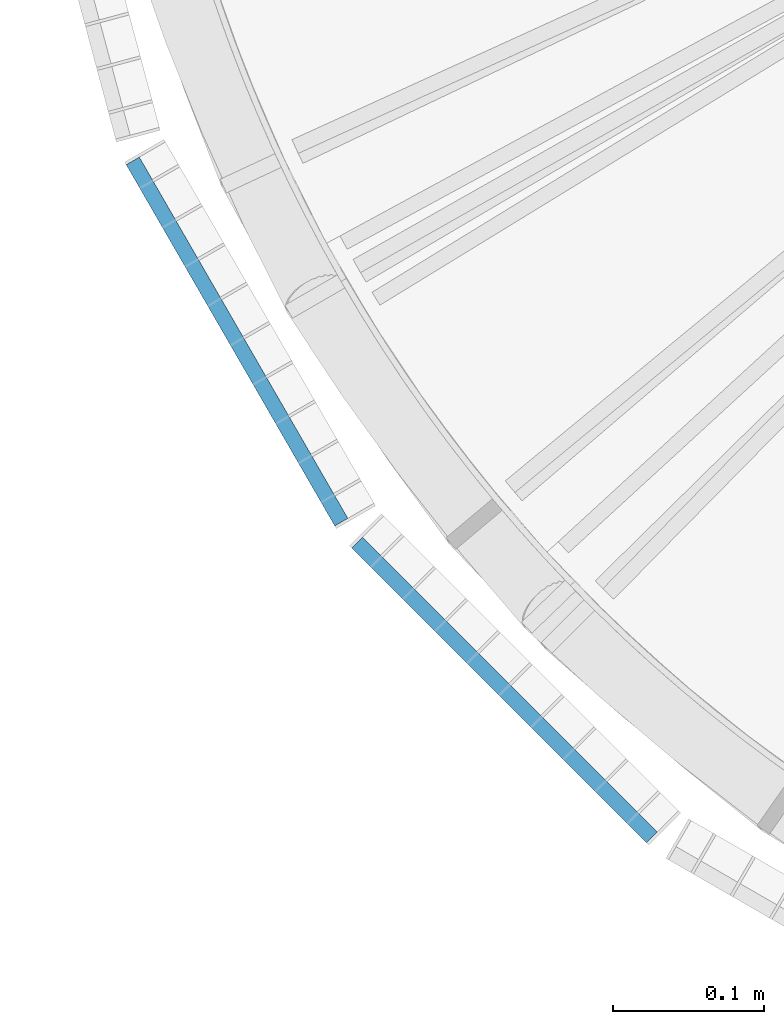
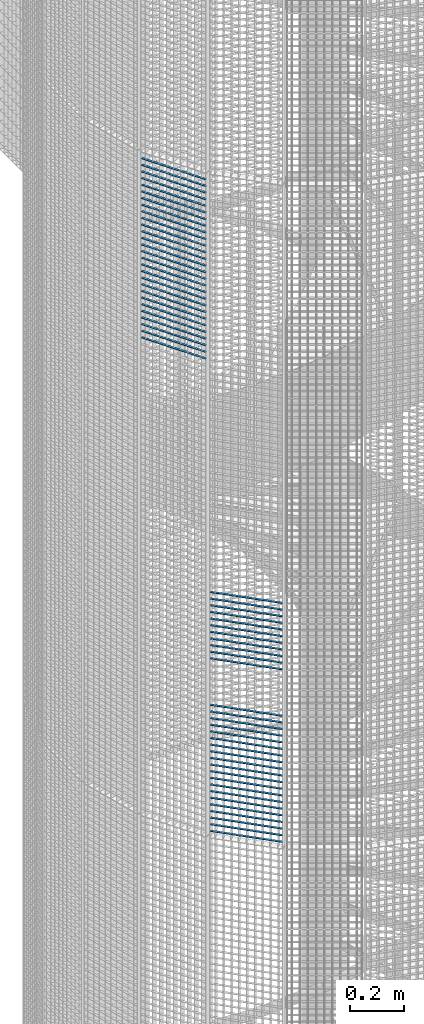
# One storey, part 124 of 1148: 59 beams, 2 elements without a shape of their own.
"""IFC2X3 building model written with IfcOpenShell, lengths in millimetres."""

from ifc_helpers import new_model, si_unit, frame, origin_with_axes, origin_2d_with_axis, place, context, subcontext, project, spatial, rectangle, extrude, material, type_object, element, aggregate, save


model = new_model("IFC2X3")

# Units and contexts
model_context = context("Model", 3, precision=1e-05, world=origin_with_axes())
body_context = subcontext(model_context, "Body", "Model", "MODEL_VIEW")
ifc_project = project(units=[si_unit("LENGTHUNIT", "METRE", prefix="MILLI"), si_unit("AREAUNIT", "SQUARE_METRE"), si_unit("VOLUMEUNIT", "CUBIC_METRE"), si_unit("MASSUNIT", "GRAM", prefix="KILO"), si_unit("TIMEUNIT", "SECOND"), si_unit("PLANEANGLEUNIT", "RADIAN"), si_unit("SOLIDANGLEUNIT", "STERADIAN"), si_unit("THERMODYNAMICTEMPERATUREUNIT", "DEGREE_CELSIUS"), si_unit("LUMINOUSINTENSITYUNIT", "LUMEN")], contexts=[model_context])

# Site, building, storey
site_placement = place(None, origin_with_axes())
site = spatial("IfcSite", under=ifc_project, at=site_placement, Name="Undefined", CompositionType="ELEMENT")
building_placement = place(site_placement, origin_with_axes())
building = spatial("IfcBuilding", under=site, at=building_placement, Name="Undefined", CompositionType="ELEMENT")
storey_placement = place(building_placement, origin_with_axes())
storey = spatial("IfcBuildingStorey", under=building, at=storey_placement, Name="Undefined", CompositionType="ELEMENT", Elevation=0.0)

# Assembly, beams
assembly_1_placement = place(storey_placement, origin_with_axes())
assembly_1 = element("IfcElementAssembly", 1, at=assembly_1_placement, inside=storey, Name="BORDURE", AssemblyPlace="NOTDEFINED", PredefinedType="NOTDEFINED")
ifc_material = material(Name="STEEL/S235JR")
beam_type = type_object("IfcBeamType", Name="PL2*10", PredefinedType="NOTDEFINED")
beam_1_placement = place(assembly_1_placement, frame((-884.927168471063, -689.771348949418, 3600.0), z_axis=(-0.70710678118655, -0.707106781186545, 0.0), x_axis=(0.707106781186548, -0.707106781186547, 0.0)))
beam_1 = element("IfcBeam", 2, at=beam_1_placement, type_object=beam_type, material=ifc_material, Name="ENTRETOISE", context=body_context, shape_type="SweptSolid", body=[
    extrude(rectangle(XDim=2.0, YDim=10.0, at=origin_2d_with_axis()), frame((275.999999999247, 9.09494701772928e-13, 1.53210777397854e-14), z_axis=(-1.0, 0.0, 0.0), x_axis=(0.0, -1.0, 0.0)), (0.0, 0.0, 1.0), 276.0),
])
beam_2_placement = place(assembly_1_placement, frame((-884.927168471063, -689.771348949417, 3810.0), z_axis=(-0.70710678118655, -0.707106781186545, 0.0), x_axis=(0.707106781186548, -0.707106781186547, 0.0)))
beam_2 = element("IfcBeam", 3, at=beam_2_placement, type_object=beam_type, material=ifc_material, Name="ENTRETOISE", context=body_context, shape_type="SweptSolid", body=[
    extrude(rectangle(XDim=2.0, YDim=10.0, at=origin_2d_with_axis()), frame((275.999999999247, 9.09494701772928e-13, 1.53210777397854e-14), z_axis=(-1.0, 0.0, 0.0), x_axis=(0.0, -1.0, 0.0)), (0.0, 0.0, 1.0), 276.0),
])
beam_3_placement = place(assembly_1_placement, frame((-884.927168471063, -689.771348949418, 3570.0), z_axis=(-0.70710678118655, -0.707106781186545, 0.0), x_axis=(0.707106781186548, -0.707106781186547, 0.0)))
beam_3 = element("IfcBeam", 4, at=beam_3_placement, type_object=beam_type, material=ifc_material, Name="ENTRETOISE", context=body_context, shape_type="SweptSolid", body=[
    extrude(rectangle(XDim=2.0, YDim=10.0, at=origin_2d_with_axis()), frame((275.999999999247, 9.09494701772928e-13, 1.53210777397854e-14), z_axis=(-1.0, 0.0, 0.0), x_axis=(0.0, -1.0, 0.0)), (0.0, 0.0, 1.0), 276.0),
])
beam_4_placement = place(assembly_1_placement, frame((-884.927168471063, -689.771348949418, 3540.0), z_axis=(-0.70710678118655, -0.707106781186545, 0.0), x_axis=(0.707106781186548, -0.707106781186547, 0.0)))
beam_4 = element("IfcBeam", 5, at=beam_4_placement, type_object=beam_type, material=ifc_material, Name="ENTRETOISE", context=body_context, shape_type="SweptSolid", body=[
    extrude(rectangle(XDim=2.0, YDim=10.0, at=origin_2d_with_axis()), frame((275.999999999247, 9.09494701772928e-13, 1.53210777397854e-14), z_axis=(-1.0, 0.0, 0.0), x_axis=(0.0, -1.0, 0.0)), (0.0, 0.0, 1.0), 276.0),
])
beam_5_placement = place(assembly_1_placement, frame((-884.927168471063, -689.771348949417, 3840.0), z_axis=(-0.70710678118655, -0.707106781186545, 0.0), x_axis=(0.707106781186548, -0.707106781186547, 0.0)))
beam_5 = element("IfcBeam", 6, at=beam_5_placement, type_object=beam_type, material=ifc_material, Name="ENTRETOISE", context=body_context, shape_type="SweptSolid", body=[
    extrude(rectangle(XDim=2.0, YDim=10.0, at=origin_2d_with_axis()), frame((275.999999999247, 9.09494701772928e-13, 1.53210777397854e-14), z_axis=(-1.0, 0.0, 0.0), x_axis=(0.0, -1.0, 0.0)), (0.0, 0.0, 1.0), 276.0),
])
beam_6_placement = place(assembly_1_placement, frame((-884.927168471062, -689.771348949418, 3510.0), z_axis=(-0.70710678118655, -0.707106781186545, 0.0), x_axis=(0.707106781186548, -0.707106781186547, 0.0)))
beam_6 = element("IfcBeam", 7, at=beam_6_placement, type_object=beam_type, material=ifc_material, Name="ENTRETOISE", context=body_context, shape_type="SweptSolid", body=[
    extrude(rectangle(XDim=2.0, YDim=10.0, at=origin_2d_with_axis()), frame((275.999999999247, 9.09494701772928e-13, 1.53210777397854e-14), z_axis=(-1.0, 0.0, 0.0), x_axis=(0.0, -1.0, 0.0)), (0.0, 0.0, 1.0), 276.0),
])
beam_7_placement = place(assembly_1_placement, frame((-884.927168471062, -689.771348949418, 3480.0), z_axis=(-0.70710678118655, -0.707106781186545, 0.0), x_axis=(0.707106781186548, -0.707106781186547, 0.0)))
beam_7 = element("IfcBeam", 8, at=beam_7_placement, type_object=beam_type, material=ifc_material, Name="ENTRETOISE", context=body_context, shape_type="SweptSolid", body=[
    extrude(rectangle(XDim=2.0, YDim=10.0, at=origin_2d_with_axis()), frame((275.999999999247, 9.09494701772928e-13, 1.53210777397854e-14), z_axis=(-1.0, 0.0, 0.0), x_axis=(0.0, -1.0, 0.0)), (0.0, 0.0, 1.0), 276.0),
])
beam_8_placement = place(assembly_1_placement, frame((-884.927168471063, -689.771348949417, 3870.0), z_axis=(-0.70710678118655, -0.707106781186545, 0.0), x_axis=(0.707106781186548, -0.707106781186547, 0.0)))
beam_8 = element("IfcBeam", 9, at=beam_8_placement, type_object=beam_type, material=ifc_material, Name="ENTRETOISE", context=body_context, shape_type="SweptSolid", body=[
    extrude(rectangle(XDim=2.0, YDim=10.0, at=origin_2d_with_axis()), frame((275.999999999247, 9.09494701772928e-13, 1.53210777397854e-14), z_axis=(-1.0, 0.0, 0.0), x_axis=(0.0, -1.0, 0.0)), (0.0, 0.0, 1.0), 276.0),
])
beam_9_placement = place(assembly_1_placement, frame((-884.927168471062, -689.771348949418, 3450.0), z_axis=(-0.70710678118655, -0.707106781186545, 0.0), x_axis=(0.707106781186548, -0.707106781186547, 0.0)))
beam_9 = element("IfcBeam", 10, at=beam_9_placement, type_object=beam_type, material=ifc_material, Name="ENTRETOISE", context=body_context, shape_type="SweptSolid", body=[
    extrude(rectangle(XDim=2.0, YDim=10.0, at=origin_2d_with_axis()), frame((275.999999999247, 9.09494701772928e-13, 1.53210777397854e-14), z_axis=(-1.0, 0.0, 0.0), x_axis=(0.0, -1.0, 0.0)), (0.0, 0.0, 1.0), 276.0),
])
beam_10_placement = place(assembly_1_placement, frame((-884.927168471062, -689.771348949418, 3420.0), z_axis=(-0.70710678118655, -0.707106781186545, 0.0), x_axis=(0.707106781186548, -0.707106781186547, 0.0)))
beam_10 = element("IfcBeam", 11, at=beam_10_placement, type_object=beam_type, material=ifc_material, Name="ENTRETOISE", context=body_context, shape_type="SweptSolid", body=[
    extrude(rectangle(XDim=2.0, YDim=10.0, at=origin_2d_with_axis()), frame((275.999999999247, 9.09494701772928e-13, 1.53210777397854e-14), z_axis=(-1.0, 0.0, 0.0), x_axis=(0.0, -1.0, 0.0)), (0.0, 0.0, 1.0), 276.0),
])
beam_11_placement = place(assembly_1_placement, frame((-884.927168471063, -689.771348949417, 3900.0), z_axis=(-0.70710678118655, -0.707106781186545, 0.0), x_axis=(0.707106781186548, -0.707106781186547, 0.0)))
beam_11 = element("IfcBeam", 12, at=beam_11_placement, type_object=beam_type, material=ifc_material, Name="ENTRETOISE", context=body_context, shape_type="SweptSolid", body=[
    extrude(rectangle(XDim=2.0, YDim=10.0, at=origin_2d_with_axis()), frame((275.999999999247, 9.09494701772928e-13, 1.53210777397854e-14), z_axis=(-1.0, 0.0, 0.0), x_axis=(0.0, -1.0, 0.0)), (0.0, 0.0, 1.0), 276.0),
])
beam_12_placement = place(assembly_1_placement, frame((-884.927168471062, -689.771348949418, 3390.0), z_axis=(-0.70710678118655, -0.707106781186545, 0.0), x_axis=(0.707106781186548, -0.707106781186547, 0.0)))
beam_12 = element("IfcBeam", 13, at=beam_12_placement, type_object=beam_type, material=ifc_material, Name="ENTRETOISE", context=body_context, shape_type="SweptSolid", body=[
    extrude(rectangle(XDim=2.0, YDim=10.0, at=origin_2d_with_axis()), frame((275.999999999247, 9.09494701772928e-13, 1.53210777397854e-14), z_axis=(-1.0, 0.0, 0.0), x_axis=(0.0, -1.0, 0.0)), (0.0, 0.0, 1.0), 276.0),
])
beam_13_placement = place(assembly_1_placement, frame((-884.927168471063, -689.771348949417, 3930.0), z_axis=(-0.70710678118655, -0.707106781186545, 0.0), x_axis=(0.707106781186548, -0.707106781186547, 0.0)))
beam_13 = element("IfcBeam", 14, at=beam_13_placement, type_object=beam_type, material=ifc_material, Name="ENTRETOISE", context=body_context, shape_type="SweptSolid", body=[
    extrude(rectangle(XDim=2.0, YDim=10.0, at=origin_2d_with_axis()), frame((275.999999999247, 9.09494701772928e-13, 1.53210777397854e-14), z_axis=(-1.0, 0.0, 0.0), x_axis=(0.0, -1.0, 0.0)), (0.0, 0.0, 1.0), 276.0),
])
beam_14_placement = place(assembly_1_placement, frame((-884.927168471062, -689.771348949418, 3360.0), z_axis=(-0.70710678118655, -0.707106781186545, 0.0), x_axis=(0.707106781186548, -0.707106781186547, 0.0)))
beam_14 = element("IfcBeam", 15, at=beam_14_placement, type_object=beam_type, material=ifc_material, Name="ENTRETOISE", context=body_context, shape_type="SweptSolid", body=[
    extrude(rectangle(XDim=2.0, YDim=10.0, at=origin_2d_with_axis()), frame((275.999999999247, 9.09494701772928e-13, 1.53210777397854e-14), z_axis=(-1.0, 0.0, 0.0), x_axis=(0.0, -1.0, 0.0)), (0.0, 0.0, 1.0), 276.0),
])
beam_15_placement = place(assembly_1_placement, frame((-884.927168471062, -689.771348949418, 3330.0), z_axis=(-0.70710678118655, -0.707106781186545, 0.0), x_axis=(0.707106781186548, -0.707106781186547, 0.0)))
beam_15 = element("IfcBeam", 16, at=beam_15_placement, type_object=beam_type, material=ifc_material, Name="ENTRETOISE", context=body_context, shape_type="SweptSolid", body=[
    extrude(rectangle(XDim=2.0, YDim=10.0, at=origin_2d_with_axis()), frame((275.999999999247, 9.09494701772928e-13, 1.53210777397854e-14), z_axis=(-1.0, 0.0, 0.0), x_axis=(0.0, -1.0, 0.0)), (0.0, 0.0, 1.0), 276.0),
])
beam_16_placement = place(assembly_1_placement, frame((-884.927168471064, -689.771348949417, 3960.0), z_axis=(-0.70710678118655, -0.707106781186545, 0.0), x_axis=(0.707106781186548, -0.707106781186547, 0.0)))
beam_16 = element("IfcBeam", 17, at=beam_16_placement, type_object=beam_type, material=ifc_material, Name="ENTRETOISE", context=body_context, shape_type="SweptSolid", body=[
    extrude(rectangle(XDim=2.0, YDim=10.0, at=origin_2d_with_axis()), frame((275.999999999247, 9.09494701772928e-13, 1.53210777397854e-14), z_axis=(-1.0, 0.0, 0.0), x_axis=(0.0, -1.0, 0.0)), (0.0, 0.0, 1.0), 276.0),
])
beam_17_placement = place(assembly_1_placement, frame((-884.927168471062, -689.771348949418, 3300.0), z_axis=(-0.70710678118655, -0.707106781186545, 0.0), x_axis=(0.707106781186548, -0.707106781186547, 0.0)))
beam_17 = element("IfcBeam", 18, at=beam_17_placement, type_object=beam_type, material=ifc_material, Name="ENTRETOISE", context=body_context, shape_type="SweptSolid", body=[
    extrude(rectangle(XDim=2.0, YDim=10.0, at=origin_2d_with_axis()), frame((275.999999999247, 9.09494701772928e-13, 1.53210777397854e-14), z_axis=(-1.0, 0.0, 0.0), x_axis=(0.0, -1.0, 0.0)), (0.0, 0.0, 1.0), 276.0),
])
beam_18_placement = place(assembly_1_placement, frame((-884.927168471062, -689.771348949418, 3270.0), z_axis=(-0.70710678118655, -0.707106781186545, 0.0), x_axis=(0.707106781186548, -0.707106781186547, 0.0)))
beam_18 = element("IfcBeam", 19, at=beam_18_placement, type_object=beam_type, material=ifc_material, Name="ENTRETOISE", context=body_context, shape_type="SweptSolid", body=[
    extrude(rectangle(XDim=2.0, YDim=10.0, at=origin_2d_with_axis()), frame((275.999999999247, 9.09494701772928e-13, 1.53210777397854e-14), z_axis=(-1.0, 0.0, 0.0), x_axis=(0.0, -1.0, 0.0)), (0.0, 0.0, 1.0), 276.0),
])
beam_19_placement = place(assembly_1_placement, frame((-884.927168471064, -689.771348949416, 3990.0), z_axis=(-0.70710678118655, -0.707106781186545, 0.0), x_axis=(0.707106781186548, -0.707106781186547, 0.0)))
beam_19 = element("IfcBeam", 20, at=beam_19_placement, type_object=beam_type, material=ifc_material, Name="ENTRETOISE", context=body_context, shape_type="SweptSolid", body=[
    extrude(rectangle(XDim=2.0, YDim=10.0, at=origin_2d_with_axis()), frame((275.999999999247, 9.09494701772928e-13, 1.53210777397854e-14), z_axis=(-1.0, 0.0, 0.0), x_axis=(0.0, -1.0, 0.0)), (0.0, 0.0, 1.0), 276.0),
])
beam_20_placement = place(assembly_1_placement, frame((-884.927168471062, -689.771348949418, 3240.0), z_axis=(-0.70710678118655, -0.707106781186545, 0.0), x_axis=(0.707106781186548, -0.707106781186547, 0.0)))
beam_20 = element("IfcBeam", 21, at=beam_20_placement, type_object=beam_type, material=ifc_material, Name="ENTRETOISE", context=body_context, shape_type="SweptSolid", body=[
    extrude(rectangle(XDim=2.0, YDim=10.0, at=origin_2d_with_axis()), frame((275.999999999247, 9.09494701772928e-13, 1.53210777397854e-14), z_axis=(-1.0, 0.0, 0.0), x_axis=(0.0, -1.0, 0.0)), (0.0, 0.0, 1.0), 276.0),
])
beam_21_placement = place(assembly_1_placement, frame((-884.927168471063, -689.771348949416, 4020.0), z_axis=(-0.70710678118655, -0.707106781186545, 0.0), x_axis=(0.707106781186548, -0.707106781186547, 0.0)))
beam_21 = element("IfcBeam", 22, at=beam_21_placement, type_object=beam_type, material=ifc_material, Name="ENTRETOISE", context=body_context, shape_type="SweptSolid", body=[
    extrude(rectangle(XDim=2.0, YDim=10.0, at=origin_2d_with_axis()), frame((275.999999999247, 9.09494701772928e-13, 1.53210777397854e-14), z_axis=(-1.0, 0.0, 0.0), x_axis=(0.0, -1.0, 0.0)), (0.0, 0.0, 1.0), 276.0),
])
beam_22_placement = place(assembly_1_placement, frame((-884.927168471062, -689.771348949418, 3210.0), z_axis=(-0.70710678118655, -0.707106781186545, 0.0), x_axis=(0.707106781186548, -0.707106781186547, 0.0)))
beam_22 = element("IfcBeam", 23, at=beam_22_placement, type_object=beam_type, material=ifc_material, Name="ENTRETOISE", context=body_context, shape_type="SweptSolid", body=[
    extrude(rectangle(XDim=2.0, YDim=10.0, at=origin_2d_with_axis()), frame((275.999999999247, 9.09494701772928e-13, 1.53210777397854e-14), z_axis=(-1.0, 0.0, 0.0), x_axis=(0.0, -1.0, 0.0)), (0.0, 0.0, 1.0), 276.0),
])
beam_23_placement = place(assembly_1_placement, frame((-884.927168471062, -689.771348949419, 3180.0), z_axis=(-0.70710678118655, -0.707106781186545, 0.0), x_axis=(0.707106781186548, -0.707106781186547, 0.0)))
beam_23 = element("IfcBeam", 24, at=beam_23_placement, type_object=beam_type, material=ifc_material, Name="ENTRETOISE", context=body_context, shape_type="SweptSolid", body=[
    extrude(rectangle(XDim=2.0, YDim=10.0, at=origin_2d_with_axis()), frame((275.999999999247, 9.09494701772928e-13, 1.53210777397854e-14), z_axis=(-1.0, 0.0, 0.0), x_axis=(0.0, -1.0, 0.0)), (0.0, 0.0, 1.0), 276.0),
])
beam_24_placement = place(assembly_1_placement, frame((-884.927168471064, -689.771348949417, 4050.0), z_axis=(-0.70710678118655, -0.707106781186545, 0.0), x_axis=(0.707106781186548, -0.707106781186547, 0.0)))
beam_24 = element("IfcBeam", 25, at=beam_24_placement, type_object=beam_type, material=ifc_material, Name="ENTRETOISE", context=body_context, shape_type="SweptSolid", body=[
    extrude(rectangle(XDim=2.0, YDim=10.0, at=origin_2d_with_axis()), frame((275.999999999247, 9.09494701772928e-13, 1.53210777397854e-14), z_axis=(-1.0, 0.0, 0.0), x_axis=(0.0, -1.0, 0.0)), (0.0, 0.0, 1.0), 276.0),
])
beam_25_placement = place(assembly_1_placement, frame((-884.927168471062, -689.771348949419, 3150.0), z_axis=(-0.70710678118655, -0.707106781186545, 0.0), x_axis=(0.707106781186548, -0.707106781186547, 0.0)))
beam_25 = element("IfcBeam", 26, at=beam_25_placement, type_object=beam_type, material=ifc_material, Name="ENTRETOISE", context=body_context, shape_type="SweptSolid", body=[
    extrude(rectangle(XDim=2.0, YDim=10.0, at=origin_2d_with_axis()), frame((275.999999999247, 9.09494701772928e-13, 1.53210777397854e-14), z_axis=(-1.0, 0.0, 0.0), x_axis=(0.0, -1.0, 0.0)), (0.0, 0.0, 1.0), 276.0),
])
beam_26_placement = place(assembly_1_placement, frame((-884.927168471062, -689.771348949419, 3120.0), z_axis=(-0.70710678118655, -0.707106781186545, 0.0), x_axis=(0.707106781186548, -0.707106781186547, 0.0)))
beam_26 = element("IfcBeam", 27, at=beam_26_placement, type_object=beam_type, material=ifc_material, Name="ENTRETOISE", context=body_context, shape_type="SweptSolid", body=[
    extrude(rectangle(XDim=2.0, YDim=10.0, at=origin_2d_with_axis()), frame((275.999999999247, 9.09494701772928e-13, 1.53210777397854e-14), z_axis=(-1.0, 0.0, 0.0), x_axis=(0.0, -1.0, 0.0)), (0.0, 0.0, 1.0), 276.0),
])
beam_27_placement = place(assembly_1_placement, frame((-884.927168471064, -689.771348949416, 4080.0), z_axis=(-0.70710678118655, -0.707106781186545, 0.0), x_axis=(0.707106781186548, -0.707106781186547, 0.0)))
beam_27 = element("IfcBeam", 28, at=beam_27_placement, type_object=beam_type, material=ifc_material, Name="ENTRETOISE", context=body_context, shape_type="SweptSolid", body=[
    extrude(rectangle(XDim=2.0, YDim=10.0, at=origin_2d_with_axis()), frame((275.999999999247, 9.09494701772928e-13, 1.53210777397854e-14), z_axis=(-1.0, 0.0, 0.0), x_axis=(0.0, -1.0, 0.0)), (0.0, 0.0, 1.0), 276.0),
])
beam_28_placement = place(assembly_1_placement, frame((-884.927168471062, -689.771348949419, 3090.0), z_axis=(-0.70710678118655, -0.707106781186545, 0.0), x_axis=(0.707106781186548, -0.707106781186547, 0.0)))
beam_28 = element("IfcBeam", 29, at=beam_28_placement, type_object=beam_type, material=ifc_material, Name="ENTRETOISE", context=body_context, shape_type="SweptSolid", body=[
    extrude(rectangle(XDim=2.0, YDim=10.0, at=origin_2d_with_axis()), frame((275.999999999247, 9.09494701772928e-13, 1.53210777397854e-14), z_axis=(-1.0, 0.0, 0.0), x_axis=(0.0, -1.0, 0.0)), (0.0, 0.0, 1.0), 276.0),
])
beam_29_placement = place(assembly_1_placement, frame((-884.927168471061, -689.771348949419, 3060.0), z_axis=(-0.70710678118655, -0.707106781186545, 0.0), x_axis=(0.707106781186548, -0.707106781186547, 0.0)))
beam_29 = element("IfcBeam", 30, at=beam_29_placement, type_object=beam_type, material=ifc_material, Name="ENTRETOISE", context=body_context, shape_type="SweptSolid", body=[
    extrude(rectangle(XDim=2.0, YDim=10.0, at=origin_2d_with_axis()), frame((275.999999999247, 9.09494701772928e-13, 1.53210777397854e-14), z_axis=(-1.0, 0.0, 0.0), x_axis=(0.0, -1.0, 0.0)), (0.0, 0.0, 1.0), 276.0),
])
beam_30_placement = place(assembly_1_placement, frame((-884.927168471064, -689.771348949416, 4110.0), z_axis=(-0.70710678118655, -0.707106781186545, 0.0), x_axis=(0.707106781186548, -0.707106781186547, 0.0)))
beam_30 = element("IfcBeam", 31, at=beam_30_placement, type_object=beam_type, material=ifc_material, Name="ENTRETOISE", context=body_context, shape_type="SweptSolid", body=[
    extrude(rectangle(XDim=2.0, YDim=10.0, at=origin_2d_with_axis()), frame((275.999999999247, 9.09494701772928e-13, 1.53210777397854e-14), z_axis=(-1.0, 0.0, 0.0), x_axis=(0.0, -1.0, 0.0)), (0.0, 0.0, 1.0), 276.0),
])
beam_31_placement = place(assembly_1_placement, frame((-884.92716847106, -689.771348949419, 3030.0), z_axis=(-0.70710678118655, -0.707106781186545, 0.0), x_axis=(0.707106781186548, -0.707106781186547, 0.0)))
beam_31 = element("IfcBeam", 32, at=beam_31_placement, type_object=beam_type, material=ifc_material, Name="ENTRETOISE", context=body_context, shape_type="SweptSolid", body=[
    extrude(rectangle(XDim=2.0, YDim=10.0, at=origin_2d_with_axis()), frame((275.999999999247, 9.09494701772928e-13, 1.53210777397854e-14), z_axis=(-1.0, 0.0, 0.0), x_axis=(0.0, -1.0, 0.0)), (0.0, 0.0, 1.0), 276.0),
])
aggregate(assembly_1, [beam_1, beam_2, beam_3, beam_4, beam_5, beam_6, beam_7, beam_8, beam_9, beam_10, beam_11, beam_12, beam_13, beam_14, beam_15, beam_16, beam_17, beam_18, beam_19, beam_20, beam_21, beam_22, beam_23, beam_24, beam_25, beam_26, beam_27, beam_28, beam_29, beam_30, beam_31])

assembly_2_placement = place(storey_placement, origin_with_axes())
assembly_2 = element("IfcElementAssembly", 33, at=assembly_2_placement, inside=storey, Name="BORDURE", AssemblyPlace="NOTDEFINED", PredefinedType="NOTDEFINED")
beam_32_placement = place(assembly_2_placement, frame((-1033.29996828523, -437.231955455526, 5970.0), z_axis=(-0.866025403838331, -0.499999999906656, 0.0), x_axis=(0.499999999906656, -0.866025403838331, 0.0)))
beam_32 = element("IfcBeam", 34, at=beam_32_placement, type_object=beam_type, material=ifc_material, Name="ENTRETOISE", context=body_context, shape_type="SweptSolid", body=[
    extrude(rectangle(XDim=2.0, YDim=10.0, at=origin_2d_with_axis()), frame((275.999999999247, 9.09494701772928e-13, 1.53210777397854e-14), z_axis=(-1.0, 0.0, 0.0), x_axis=(0.0, -1.0, 0.0)), (0.0, 0.0, 1.0), 276.0),
])
beam_33_placement = place(assembly_2_placement, frame((-1033.29996828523, -437.231955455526, 5940.0), z_axis=(-0.866025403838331, -0.499999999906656, 0.0), x_axis=(0.499999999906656, -0.866025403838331, 0.0)))
beam_33 = element("IfcBeam", 35, at=beam_33_placement, type_object=beam_type, material=ifc_material, Name="ENTRETOISE", context=body_context, shape_type="SweptSolid", body=[
    extrude(rectangle(XDim=2.0, YDim=10.0, at=origin_2d_with_axis()), frame((275.999999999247, 9.09494701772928e-13, 1.53210777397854e-14), z_axis=(-1.0, 0.0, 0.0), x_axis=(0.0, -1.0, 0.0)), (0.0, 0.0, 1.0), 276.0),
])
beam_34_placement = place(assembly_2_placement, frame((-1033.29996828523, -437.231955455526, 5910.0), z_axis=(-0.866025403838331, -0.499999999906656, 0.0), x_axis=(0.499999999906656, -0.866025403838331, 0.0)))
beam_34 = element("IfcBeam", 36, at=beam_34_placement, type_object=beam_type, material=ifc_material, Name="ENTRETOISE", context=body_context, shape_type="SweptSolid", body=[
    extrude(rectangle(XDim=2.0, YDim=10.0, at=origin_2d_with_axis()), frame((275.999999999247, 9.09494701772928e-13, 1.53210777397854e-14), z_axis=(-1.0, 0.0, 0.0), x_axis=(0.0, -1.0, 0.0)), (0.0, 0.0, 1.0), 276.0),
])
beam_35_placement = place(assembly_2_placement, frame((-1033.29996828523, -437.231955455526, 5880.0), z_axis=(-0.866025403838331, -0.499999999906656, 0.0), x_axis=(0.499999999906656, -0.866025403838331, 0.0)))
beam_35 = element("IfcBeam", 37, at=beam_35_placement, type_object=beam_type, material=ifc_material, Name="ENTRETOISE", context=body_context, shape_type="SweptSolid", body=[
    extrude(rectangle(XDim=2.0, YDim=10.0, at=origin_2d_with_axis()), frame((275.999999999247, 9.09494701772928e-13, 1.53210777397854e-14), z_axis=(-1.0, 0.0, 0.0), x_axis=(0.0, -1.0, 0.0)), (0.0, 0.0, 1.0), 276.0),
])
beam_36_placement = place(assembly_2_placement, frame((-1033.29996828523, -437.231955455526, 5850.0), z_axis=(-0.866025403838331, -0.499999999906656, 0.0), x_axis=(0.499999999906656, -0.866025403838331, 0.0)))
beam_36 = element("IfcBeam", 38, at=beam_36_placement, type_object=beam_type, material=ifc_material, Name="ENTRETOISE", context=body_context, shape_type="SweptSolid", body=[
    extrude(rectangle(XDim=2.0, YDim=10.0, at=origin_2d_with_axis()), frame((275.999999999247, 9.09494701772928e-13, 1.53210777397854e-14), z_axis=(-1.0, 0.0, 0.0), x_axis=(0.0, -1.0, 0.0)), (0.0, 0.0, 1.0), 276.0),
])
beam_37_placement = place(assembly_2_placement, frame((-1033.29996828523, -437.231955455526, 5820.0), z_axis=(-0.866025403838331, -0.499999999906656, 0.0), x_axis=(0.499999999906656, -0.866025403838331, 0.0)))
beam_37 = element("IfcBeam", 39, at=beam_37_placement, type_object=beam_type, material=ifc_material, Name="ENTRETOISE", context=body_context, shape_type="SweptSolid", body=[
    extrude(rectangle(XDim=2.0, YDim=10.0, at=origin_2d_with_axis()), frame((275.999999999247, 9.09494701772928e-13, 1.53210777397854e-14), z_axis=(-1.0, 0.0, 0.0), x_axis=(0.0, -1.0, 0.0)), (0.0, 0.0, 1.0), 276.0),
])
beam_38_placement = place(assembly_2_placement, frame((-1033.29996828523, -437.231955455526, 5790.0), z_axis=(-0.866025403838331, -0.499999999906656, 0.0), x_axis=(0.499999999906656, -0.866025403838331, 0.0)))
beam_38 = element("IfcBeam", 40, at=beam_38_placement, type_object=beam_type, material=ifc_material, Name="ENTRETOISE", context=body_context, shape_type="SweptSolid", body=[
    extrude(rectangle(XDim=2.0, YDim=10.0, at=origin_2d_with_axis()), frame((275.999999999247, 9.09494701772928e-13, 1.53210777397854e-14), z_axis=(-1.0, 0.0, 0.0), x_axis=(0.0, -1.0, 0.0)), (0.0, 0.0, 1.0), 276.0),
])
beam_39_placement = place(assembly_2_placement, frame((-1033.29996828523, -437.231955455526, 5760.0), z_axis=(-0.866025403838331, -0.499999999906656, 0.0), x_axis=(0.499999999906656, -0.866025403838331, 0.0)))
beam_39 = element("IfcBeam", 41, at=beam_39_placement, type_object=beam_type, material=ifc_material, Name="ENTRETOISE", context=body_context, shape_type="SweptSolid", body=[
    extrude(rectangle(XDim=2.0, YDim=10.0, at=origin_2d_with_axis()), frame((275.999999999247, 9.09494701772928e-13, 1.53210777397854e-14), z_axis=(-1.0, 0.0, 0.0), x_axis=(0.0, -1.0, 0.0)), (0.0, 0.0, 1.0), 276.0),
])
beam_40_placement = place(assembly_2_placement, frame((-1033.29996828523, -437.231955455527, 5730.0), z_axis=(-0.866025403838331, -0.499999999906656, 0.0), x_axis=(0.499999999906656, -0.866025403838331, 0.0)))
beam_40 = element("IfcBeam", 42, at=beam_40_placement, type_object=beam_type, material=ifc_material, Name="ENTRETOISE", context=body_context, shape_type="SweptSolid", body=[
    extrude(rectangle(XDim=2.0, YDim=10.0, at=origin_2d_with_axis()), frame((275.999999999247, 9.09494701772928e-13, 1.53210777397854e-14), z_axis=(-1.0, 0.0, 0.0), x_axis=(0.0, -1.0, 0.0)), (0.0, 0.0, 1.0), 276.0),
])
beam_41_placement = place(assembly_2_placement, frame((-1033.29996828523, -437.231955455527, 5700.0), z_axis=(-0.866025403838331, -0.499999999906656, 0.0), x_axis=(0.499999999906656, -0.866025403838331, 0.0)))
beam_41 = element("IfcBeam", 43, at=beam_41_placement, type_object=beam_type, material=ifc_material, Name="ENTRETOISE", context=body_context, shape_type="SweptSolid", body=[
    extrude(rectangle(XDim=2.0, YDim=10.0, at=origin_2d_with_axis()), frame((275.999999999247, 9.09494701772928e-13, 1.53210777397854e-14), z_axis=(-1.0, 0.0, 0.0), x_axis=(0.0, -1.0, 0.0)), (0.0, 0.0, 1.0), 276.0),
])
beam_42_placement = place(assembly_2_placement, frame((-1033.29996828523, -437.231955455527, 5670.0), z_axis=(-0.866025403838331, -0.499999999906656, 0.0), x_axis=(0.499999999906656, -0.866025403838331, 0.0)))
beam_42 = element("IfcBeam", 44, at=beam_42_placement, type_object=beam_type, material=ifc_material, Name="ENTRETOISE", context=body_context, shape_type="SweptSolid", body=[
    extrude(rectangle(XDim=2.0, YDim=10.0, at=origin_2d_with_axis()), frame((275.999999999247, 9.09494701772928e-13, 1.53210777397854e-14), z_axis=(-1.0, 0.0, 0.0), x_axis=(0.0, -1.0, 0.0)), (0.0, 0.0, 1.0), 276.0),
])
beam_43_placement = place(assembly_2_placement, frame((-1033.29996828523, -437.231955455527, 5640.0), z_axis=(-0.866025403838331, -0.499999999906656, 0.0), x_axis=(0.499999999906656, -0.866025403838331, 0.0)))
beam_43 = element("IfcBeam", 45, at=beam_43_placement, type_object=beam_type, material=ifc_material, Name="ENTRETOISE", context=body_context, shape_type="SweptSolid", body=[
    extrude(rectangle(XDim=2.0, YDim=10.0, at=origin_2d_with_axis()), frame((275.999999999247, 9.09494701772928e-13, 1.53210777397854e-14), z_axis=(-1.0, 0.0, 0.0), x_axis=(0.0, -1.0, 0.0)), (0.0, 0.0, 1.0), 276.0),
])
beam_44_placement = place(assembly_2_placement, frame((-1033.29996828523, -437.231955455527, 5610.0), z_axis=(-0.866025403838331, -0.499999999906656, 0.0), x_axis=(0.499999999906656, -0.866025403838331, 0.0)))
beam_44 = element("IfcBeam", 46, at=beam_44_placement, type_object=beam_type, material=ifc_material, Name="ENTRETOISE", context=body_context, shape_type="SweptSolid", body=[
    extrude(rectangle(XDim=2.0, YDim=10.0, at=origin_2d_with_axis()), frame((275.999999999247, 9.09494701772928e-13, 1.53210777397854e-14), z_axis=(-1.0, 0.0, 0.0), x_axis=(0.0, -1.0, 0.0)), (0.0, 0.0, 1.0), 276.0),
])
beam_45_placement = place(assembly_2_placement, frame((-1033.29996828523, -437.231955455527, 5580.0), z_axis=(-0.866025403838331, -0.499999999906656, 0.0), x_axis=(0.499999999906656, -0.866025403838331, 0.0)))
beam_45 = element("IfcBeam", 47, at=beam_45_placement, type_object=beam_type, material=ifc_material, Name="ENTRETOISE", context=body_context, shape_type="SweptSolid", body=[
    extrude(rectangle(XDim=2.0, YDim=10.0, at=origin_2d_with_axis()), frame((275.999999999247, 9.09494701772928e-13, 1.53210777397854e-14), z_axis=(-1.0, 0.0, 0.0), x_axis=(0.0, -1.0, 0.0)), (0.0, 0.0, 1.0), 276.0),
])
beam_46_placement = place(assembly_2_placement, frame((-1033.29996828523, -437.231955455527, 5550.0), z_axis=(-0.866025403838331, -0.499999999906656, 0.0), x_axis=(0.499999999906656, -0.866025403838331, 0.0)))
beam_46 = element("IfcBeam", 48, at=beam_46_placement, type_object=beam_type, material=ifc_material, Name="ENTRETOISE", context=body_context, shape_type="SweptSolid", body=[
    extrude(rectangle(XDim=2.0, YDim=10.0, at=origin_2d_with_axis()), frame((275.999999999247, 9.09494701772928e-13, 1.53210777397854e-14), z_axis=(-1.0, 0.0, 0.0), x_axis=(0.0, -1.0, 0.0)), (0.0, 0.0, 1.0), 276.0),
])
beam_47_placement = place(assembly_2_placement, frame((-1033.29996828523, -437.231955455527, 5520.0), z_axis=(-0.866025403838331, -0.499999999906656, 0.0), x_axis=(0.499999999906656, -0.866025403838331, 0.0)))
beam_47 = element("IfcBeam", 49, at=beam_47_placement, type_object=beam_type, material=ifc_material, Name="ENTRETOISE", context=body_context, shape_type="SweptSolid", body=[
    extrude(rectangle(XDim=2.0, YDim=10.0, at=origin_2d_with_axis()), frame((275.999999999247, 9.09494701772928e-13, 1.53210777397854e-14), z_axis=(-1.0, 0.0, 0.0), x_axis=(0.0, -1.0, 0.0)), (0.0, 0.0, 1.0), 276.0),
])
beam_48_placement = place(assembly_2_placement, frame((-1033.29996828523, -437.231955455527, 5490.0), z_axis=(-0.866025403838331, -0.499999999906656, 0.0), x_axis=(0.499999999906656, -0.866025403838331, 0.0)))
beam_48 = element("IfcBeam", 50, at=beam_48_placement, type_object=beam_type, material=ifc_material, Name="ENTRETOISE", context=body_context, shape_type="SweptSolid", body=[
    extrude(rectangle(XDim=2.0, YDim=10.0, at=origin_2d_with_axis()), frame((275.999999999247, 9.09494701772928e-13, 1.53210777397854e-14), z_axis=(-1.0, 0.0, 0.0), x_axis=(0.0, -1.0, 0.0)), (0.0, 0.0, 1.0), 276.0),
])
beam_49_placement = place(assembly_2_placement, frame((-1033.29996828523, -437.231955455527, 5460.0), z_axis=(-0.866025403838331, -0.499999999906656, 0.0), x_axis=(0.499999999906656, -0.866025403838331, 0.0)))
beam_49 = element("IfcBeam", 51, at=beam_49_placement, type_object=beam_type, material=ifc_material, Name="ENTRETOISE", context=body_context, shape_type="SweptSolid", body=[
    extrude(rectangle(XDim=2.0, YDim=10.0, at=origin_2d_with_axis()), frame((275.999999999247, 9.09494701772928e-13, 1.53210777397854e-14), z_axis=(-1.0, 0.0, 0.0), x_axis=(0.0, -1.0, 0.0)), (0.0, 0.0, 1.0), 276.0),
])
beam_50_placement = place(assembly_2_placement, frame((-1033.29996828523, -437.231955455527, 5430.0), z_axis=(-0.866025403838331, -0.499999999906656, 0.0), x_axis=(0.499999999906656, -0.866025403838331, 0.0)))
beam_50 = element("IfcBeam", 52, at=beam_50_placement, type_object=beam_type, material=ifc_material, Name="ENTRETOISE", context=body_context, shape_type="SweptSolid", body=[
    extrude(rectangle(XDim=2.0, YDim=10.0, at=origin_2d_with_axis()), frame((275.999999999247, 9.09494701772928e-13, 1.53210777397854e-14), z_axis=(-1.0, 0.0, 0.0), x_axis=(0.0, -1.0, 0.0)), (0.0, 0.0, 1.0), 276.0),
])
beam_51_placement = place(assembly_2_placement, frame((-1033.29996828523, -437.231955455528, 5400.0), z_axis=(-0.866025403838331, -0.499999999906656, 0.0), x_axis=(0.499999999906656, -0.866025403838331, 0.0)))
beam_51 = element("IfcBeam", 53, at=beam_51_placement, type_object=beam_type, material=ifc_material, Name="ENTRETOISE", context=body_context, shape_type="SweptSolid", body=[
    extrude(rectangle(XDim=2.0, YDim=10.0, at=origin_2d_with_axis()), frame((275.999999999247, 9.09494701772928e-13, 1.53210777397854e-14), z_axis=(-1.0, 0.0, 0.0), x_axis=(0.0, -1.0, 0.0)), (0.0, 0.0, 1.0), 276.0),
])
beam_52_placement = place(assembly_2_placement, frame((-1033.29996828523, -437.231955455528, 5370.0), z_axis=(-0.866025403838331, -0.499999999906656, 0.0), x_axis=(0.499999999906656, -0.866025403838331, 0.0)))
beam_52 = element("IfcBeam", 54, at=beam_52_placement, type_object=beam_type, material=ifc_material, Name="ENTRETOISE", context=body_context, shape_type="SweptSolid", body=[
    extrude(rectangle(XDim=2.0, YDim=10.0, at=origin_2d_with_axis()), frame((275.999999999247, 9.09494701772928e-13, 1.53210777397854e-14), z_axis=(-1.0, 0.0, 0.0), x_axis=(0.0, -1.0, 0.0)), (0.0, 0.0, 1.0), 276.0),
])
beam_53_placement = place(assembly_2_placement, frame((-1033.29996828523, -437.231955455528, 5340.0), z_axis=(-0.866025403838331, -0.499999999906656, 0.0), x_axis=(0.499999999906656, -0.866025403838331, 0.0)))
beam_53 = element("IfcBeam", 55, at=beam_53_placement, type_object=beam_type, material=ifc_material, Name="ENTRETOISE", context=body_context, shape_type="SweptSolid", body=[
    extrude(rectangle(XDim=2.0, YDim=10.0, at=origin_2d_with_axis()), frame((275.999999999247, 9.09494701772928e-13, 1.53210777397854e-14), z_axis=(-1.0, 0.0, 0.0), x_axis=(0.0, -1.0, 0.0)), (0.0, 0.0, 1.0), 276.0),
])
beam_54_placement = place(assembly_2_placement, frame((-1033.29996828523, -437.231955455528, 5310.0), z_axis=(-0.866025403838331, -0.499999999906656, 0.0), x_axis=(0.499999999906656, -0.866025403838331, 0.0)))
beam_54 = element("IfcBeam", 56, at=beam_54_placement, type_object=beam_type, material=ifc_material, Name="ENTRETOISE", context=body_context, shape_type="SweptSolid", body=[
    extrude(rectangle(XDim=2.0, YDim=10.0, at=origin_2d_with_axis()), frame((275.999999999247, 9.09494701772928e-13, 1.53210777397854e-14), z_axis=(-1.0, 0.0, 0.0), x_axis=(0.0, -1.0, 0.0)), (0.0, 0.0, 1.0), 276.0),
])
beam_55_placement = place(assembly_2_placement, frame((-1033.29996828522, -437.231955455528, 5280.0), z_axis=(-0.866025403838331, -0.499999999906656, 0.0), x_axis=(0.499999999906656, -0.866025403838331, 0.0)))
beam_55 = element("IfcBeam", 57, at=beam_55_placement, type_object=beam_type, material=ifc_material, Name="ENTRETOISE", context=body_context, shape_type="SweptSolid", body=[
    extrude(rectangle(XDim=2.0, YDim=10.0, at=origin_2d_with_axis()), frame((275.999999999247, 9.09494701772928e-13, 1.53210777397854e-14), z_axis=(-1.0, 0.0, 0.0), x_axis=(0.0, -1.0, 0.0)), (0.0, 0.0, 1.0), 276.0),
])
beam_56_placement = place(assembly_2_placement, frame((-1033.29996828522, -437.231955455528, 5250.0), z_axis=(-0.866025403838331, -0.499999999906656, 0.0), x_axis=(0.499999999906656, -0.866025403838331, 0.0)))
beam_56 = element("IfcBeam", 58, at=beam_56_placement, type_object=beam_type, material=ifc_material, Name="ENTRETOISE", context=body_context, shape_type="SweptSolid", body=[
    extrude(rectangle(XDim=2.0, YDim=10.0, at=origin_2d_with_axis()), frame((275.999999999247, 9.09494701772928e-13, 1.53210777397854e-14), z_axis=(-1.0, 0.0, 0.0), x_axis=(0.0, -1.0, 0.0)), (0.0, 0.0, 1.0), 276.0),
])
beam_57_placement = place(assembly_2_placement, frame((-1033.29996828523, -437.231955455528, 5220.0), z_axis=(-0.866025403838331, -0.499999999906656, 0.0), x_axis=(0.499999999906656, -0.866025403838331, 0.0)))
beam_57 = element("IfcBeam", 59, at=beam_57_placement, type_object=beam_type, material=ifc_material, Name="ENTRETOISE", context=body_context, shape_type="SweptSolid", body=[
    extrude(rectangle(XDim=2.0, YDim=10.0, at=origin_2d_with_axis()), frame((275.999999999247, 9.09494701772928e-13, 1.53210777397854e-14), z_axis=(-1.0, 0.0, 0.0), x_axis=(0.0, -1.0, 0.0)), (0.0, 0.0, 1.0), 276.0),
])
beam_58_placement = place(assembly_2_placement, frame((-1033.29996828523, -437.231955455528, 5190.0), z_axis=(-0.866025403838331, -0.499999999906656, 0.0), x_axis=(0.499999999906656, -0.866025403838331, 0.0)))
beam_58 = element("IfcBeam", 60, at=beam_58_placement, type_object=beam_type, material=ifc_material, Name="ENTRETOISE", context=body_context, shape_type="SweptSolid", body=[
    extrude(rectangle(XDim=2.0, YDim=10.0, at=origin_2d_with_axis()), frame((275.999999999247, 9.09494701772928e-13, 1.53210777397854e-14), z_axis=(-1.0, 0.0, 0.0), x_axis=(0.0, -1.0, 0.0)), (0.0, 0.0, 1.0), 276.0),
])
beam_59_placement = place(assembly_2_placement, frame((-1033.29996828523, -437.231955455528, 5160.0), z_axis=(-0.866025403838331, -0.499999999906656, 0.0), x_axis=(0.499999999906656, -0.866025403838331, 0.0)))
beam_59 = element("IfcBeam", 61, at=beam_59_placement, type_object=beam_type, material=ifc_material, Name="ENTRETOISE", context=body_context, shape_type="SweptSolid", body=[
    extrude(rectangle(XDim=2.0, YDim=10.0, at=origin_2d_with_axis()), frame((275.999999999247, 9.09494701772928e-13, 1.53210777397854e-14), z_axis=(-1.0, 0.0, 0.0), x_axis=(0.0, -1.0, 0.0)), (0.0, 0.0, 1.0), 276.0),
])
aggregate(assembly_2, [beam_32, beam_33, beam_34, beam_35, beam_36, beam_37, beam_38, beam_39, beam_40, beam_41, beam_42, beam_43, beam_44, beam_45, beam_46, beam_47, beam_48, beam_49, beam_50, beam_51, beam_52, beam_53, beam_54, beam_55, beam_56, beam_57, beam_58, beam_59])

save(model, "model.ifc")
